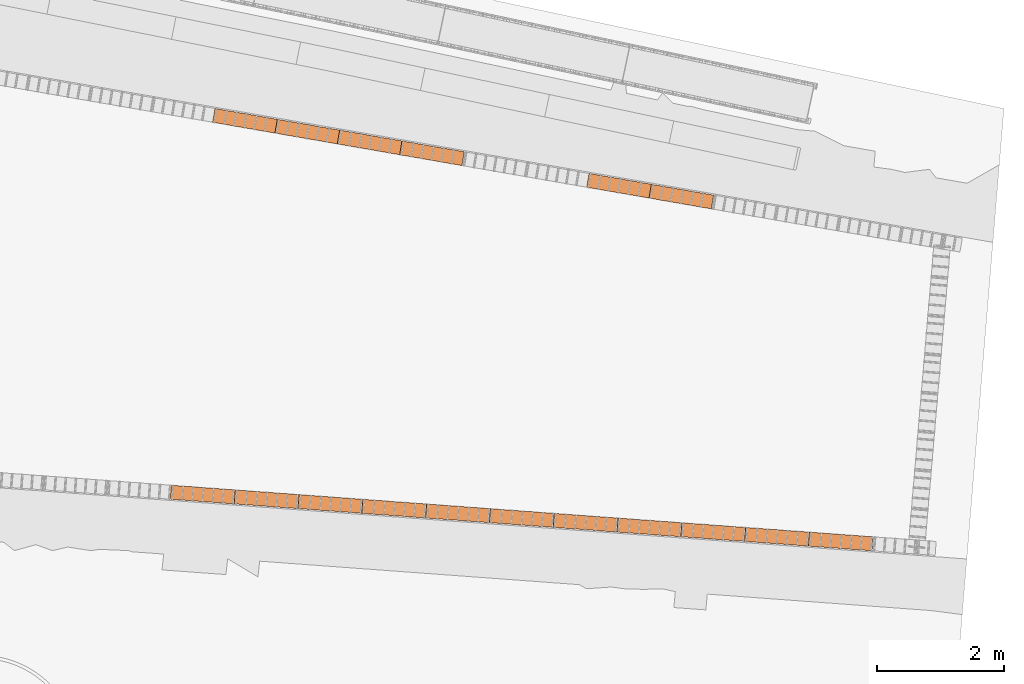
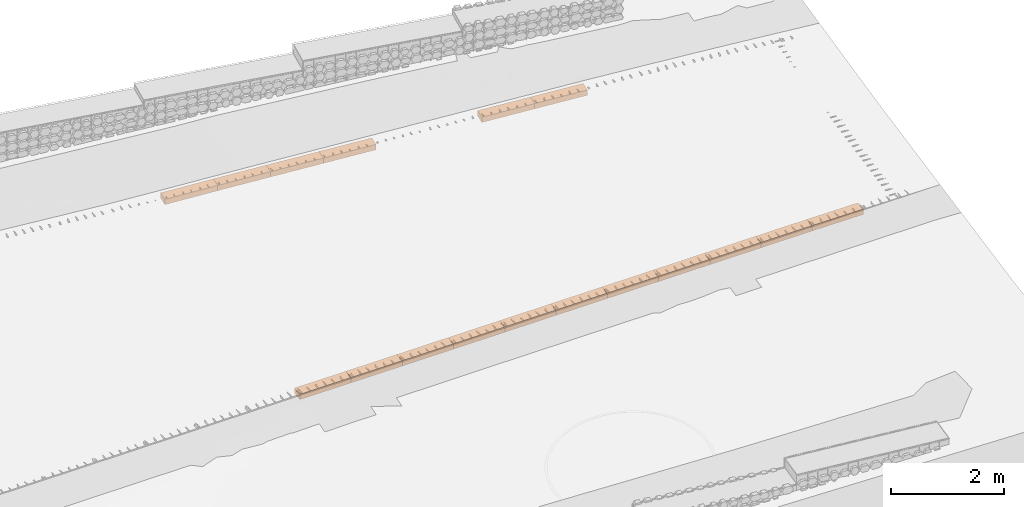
# Not in any storey, part 30 of 33: 17 proxies.
"""IFC4 model written with IfcOpenShell, lengths in metres."""

from ifc_helpers import new_model, si_unit, direction, frame, origin_with_axes, place, context, subcontext, project, spatial, polygons, material, element, save


model = new_model("IFC4")

# Units and contexts
model_context = context("Model", 3, precision=1e-05, world=origin_with_axes(), true_north=direction((0.0, 1.0)))
body_context = subcontext(model_context, "Body", "Model", "MODEL_VIEW")
ifc_project = project(units=[si_unit("LENGTHUNIT", "METRE"), si_unit("AREAUNIT", "SQUARE_METRE"), si_unit("VOLUMEUNIT", "CUBIC_METRE")], contexts=[model_context])

# Site
site_placement = place(None, origin_with_axes())
site = spatial("IfcSite", under=ifc_project, at=site_placement, Name="Lares · Rua das Mercês · artigo 4771")

# Proxies
ifc_material = material(Name="Brita drenante", Category="stone")
proxy_1_placement = place(site_placement, frame((0.0, 0.0, 0.0), z_axis=(0.0, 0.0, 1.0), x_axis=(1.0, -1.03767253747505e-17, 0.0)))
element("IfcBuildingElementProxy", 1, at=proxy_1_placement, inside=site, material=ifc_material, Name="Acesso · dreno lateral raso · leito drenante", ObjectType="Acesso · dreno lateral raso · leito drenante", PredefinedType="USERDEFINED", context=body_context, shape_type="Tessellation", body=[
    polygons([(70.7471635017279, 1.44988744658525, 15.3206617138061), (70.7632908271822, 1.66929553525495, 15.3206617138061), (71.7673363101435, 1.59549438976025, 15.3752269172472), (71.7512089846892, 1.37608630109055, 15.3752269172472), (70.7471635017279, 1.44988744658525, 15.4356617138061), (70.7632908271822, 1.66929553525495, 15.4356617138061), (71.7673363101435, 1.59549438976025, 15.4902269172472), (71.7512089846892, 1.37608630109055, 15.4902269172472)], [[[4, 3, 2, 1]], [[5, 6, 7, 8]], [[1, 2, 6, 5]], [[2, 3, 7, 6]], [[3, 4, 8, 7]], [[4, 1, 5, 8]]]),
])
proxy_2_placement = place(site_placement, frame((0.0, 0.0, 0.0), z_axis=(0.0, 0.0, 1.0), x_axis=(1.0, -1.03767253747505e-17, 0.0)))
element("IfcBuildingElementProxy", 2, at=proxy_2_placement, inside=site, material=ifc_material, Name="Acesso · dreno lateral raso · leito drenante", ObjectType="Acesso · dreno lateral raso · leito drenante", PredefinedType="USERDEFINED", context=body_context, shape_type="Tessellation", body=[
    polygons([(71.7512089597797, 1.37608630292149, 15.3752269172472), (71.7673363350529, 1.59549438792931, 15.3752269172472), (72.7713731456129, 1.52169365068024, 15.4324257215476), (72.7552457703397, 1.30228556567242, 15.4324257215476), (71.7512089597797, 1.37608630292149, 15.4902269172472), (71.7673363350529, 1.59549438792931, 15.4902269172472), (72.7713731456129, 1.52169365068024, 15.5474257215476), (72.7552457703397, 1.30228556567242, 15.5474257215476)], [[[4, 3, 2, 1]], [[5, 6, 7, 8]], [[1, 2, 6, 5]], [[2, 3, 7, 6]], [[3, 4, 8, 7]], [[4, 1, 5, 8]]]),
])
proxy_3_placement = place(site_placement, frame((0.0, 0.0, 0.0), z_axis=(0.0, 0.0, 1.0), x_axis=(1.0, -1.03767253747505e-17, 0.0)))
element("IfcBuildingElementProxy", 3, at=proxy_3_placement, inside=site, material=ifc_material, Name="Acesso · dreno lateral raso · leito drenante", ObjectType="Acesso · dreno lateral raso · leito drenante", PredefinedType="USERDEFINED", context=body_context, shape_type="Tessellation", body=[
    polygons([(72.7552457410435, 1.30228556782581, 15.4324257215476), (72.771373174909, 1.52169364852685, 15.4324257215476), (73.7754008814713, 1.44789331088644, 15.4903385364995), (73.7592734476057, 1.2284852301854, 15.4903385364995), (72.7552457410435, 1.30228556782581, 15.5474257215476), (72.771373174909, 1.52169364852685, 15.5474257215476), (73.7754008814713, 1.44789331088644, 15.6053385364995), (73.7592734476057, 1.2284852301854, 15.6053385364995)], [[[4, 3, 2, 1]], [[5, 6, 7, 8]], [[1, 2, 6, 5]], [[2, 3, 7, 6]], [[3, 4, 8, 7]], [[4, 1, 5, 8]]]),
])
proxy_4_placement = place(site_placement, frame((0.0, 0.0, 0.0), z_axis=(0.0, 0.0, 1.0), x_axis=(1.0, -1.03767253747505e-17, 0.0)))
element("IfcBuildingElementProxy", 4, at=proxy_4_placement, inside=site, material=ifc_material, Name="Acesso · dreno lateral raso · leito drenante", ObjectType="Acesso · dreno lateral raso · leito drenante", PredefinedType="USERDEFINED", context=body_context, shape_type="Tessellation", body=[
    polygons([(73.7592734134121, 1.22848523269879, 15.4903385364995), (73.7754009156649, 1.44789330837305, 15.4903385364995), (74.7794190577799, 1.37409335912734, 15.5482507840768), (74.7632915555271, 1.15468528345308, 15.5482507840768), (73.7592734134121, 1.22848523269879, 15.6053385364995), (73.7754009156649, 1.44789330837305, 15.6053385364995), (74.7794190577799, 1.37409335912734, 15.6632507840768), (74.7632915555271, 1.15468528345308, 15.6632507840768)], [[[4, 3, 2, 1]], [[5, 6, 7, 8]], [[1, 2, 6, 5]], [[2, 3, 7, 6]], [[3, 4, 8, 7]], [[4, 1, 5, 8]]]),
])
proxy_5_placement = place(site_placement, frame((0.0, 0.0, 0.0), z_axis=(0.0, 0.0, 1.0), x_axis=(1.0, -1.03767253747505e-17, 0.0)))
element("IfcBuildingElementProxy", 5, at=proxy_5_placement, inside=site, material=ifc_material, Name="Acesso · dreno lateral raso · leito drenante", ObjectType="Acesso · dreno lateral raso · leito drenante", PredefinedType="USERDEFINED", context=body_context, shape_type="Tessellation", body=[
    polygons([(74.7632915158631, 1.15468528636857, 15.5482507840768), (74.7794190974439, 1.37409335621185, 15.5482507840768), (75.7834271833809, 1.30029378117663, 15.6061624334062), (75.7672996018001, 1.08088571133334, 15.6061624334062), (74.7632915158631, 1.15468528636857, 15.6632507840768), (74.7794190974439, 1.37409335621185, 15.6632507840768), (75.7834271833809, 1.30029378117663, 15.7211624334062), (75.7672996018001, 1.08088571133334, 15.7211624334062)], [[[4, 3, 2, 1]], [[5, 6, 7, 8]], [[1, 2, 6, 5]], [[2, 3, 7, 6]], [[3, 4, 8, 7]], [[4, 1, 5, 8]]]),
])
proxy_6_placement = place(site_placement, frame((0.0, 0.0, 0.0), z_axis=(0.0, 0.0, 1.0), x_axis=(1.0, -1.03767253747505e-17, 0.0)))
element("IfcBuildingElementProxy", 6, at=proxy_6_placement, inside=site, material=ifc_material, Name="Acesso · dreno lateral raso · leito drenante", ObjectType="Acesso · dreno lateral raso · leito drenante", PredefinedType="USERDEFINED", context=body_context, shape_type="Tessellation", body=[
    polygons([(75.7672995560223, 1.08088571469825, 15.6061624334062), (75.7834272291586, 1.30029377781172, 15.6061624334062), (76.7874247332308, 1.22649455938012, 15.6640734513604), (76.7712970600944, 1.00708649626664, 15.6640734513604), (75.7672995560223, 1.08088571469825, 15.7211624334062), (75.7834272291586, 1.30029377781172, 15.7211624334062), (76.7874247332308, 1.22649455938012, 15.7790734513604), (76.7712970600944, 1.00708649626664, 15.7790734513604)], [[[4, 3, 2, 1]], [[5, 6, 7, 8]], [[1, 2, 6, 5]], [[2, 3, 7, 6]], [[3, 4, 8, 7]], [[4, 1, 5, 8]]]),
])
proxy_7_placement = place(site_placement, frame((0.0, 0.0, 0.0), z_axis=(0.0, 0.0, 1.0), x_axis=(1.0, -1.03767253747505e-17, 0.0)))
element("IfcBuildingElementProxy", 7, at=proxy_7_placement, inside=site, material=ifc_material, Name="Acesso · dreno lateral raso · leito drenante", ObjectType="Acesso · dreno lateral raso · leito drenante", PredefinedType="USERDEFINED", context=body_context, shape_type="Tessellation", body=[
    polygons([(76.7712970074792, 1.00708650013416, 15.6640734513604), (76.787424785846, 1.2264945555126, 15.6640734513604), (77.7914111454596, 1.15269567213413, 15.7219838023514), (77.7752833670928, 0.933287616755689, 15.7219838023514), (76.7712970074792, 1.00708650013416, 15.7790734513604), (76.787424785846, 1.2264945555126, 15.7790734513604), (77.7914111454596, 1.15269567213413, 15.8369838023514), (77.7752833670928, 0.933287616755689, 15.8369838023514)], [[[4, 3, 2, 1]], [[5, 6, 7, 8]], [[1, 2, 6, 5]], [[2, 3, 7, 6]], [[3, 4, 8, 7]], [[4, 1, 5, 8]]]),
])
proxy_8_placement = place(site_placement, frame((0.0, 0.0, 0.0), z_axis=(0.0, 0.0, 1.0), x_axis=(1.0, -1.03767253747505e-17, 0.0)))
element("IfcBuildingElementProxy", 8, at=proxy_8_placement, inside=site, material=ifc_material, Name="Acesso · dreno lateral raso · leito drenante", ObjectType="Acesso · dreno lateral raso · leito drenante", PredefinedType="USERDEFINED", context=body_context, shape_type="Tessellation", body=[
    polygons([(77.7752833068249, 0.933287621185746, 15.7219838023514), (77.7914112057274, 1.15269566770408, 15.7219838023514), (78.7953858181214, 1.07889709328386, 15.7798934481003), (78.7792579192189, 0.859489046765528, 15.7798934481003), (77.7752833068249, 0.933287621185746, 15.8369838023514), (77.7914112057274, 1.15269566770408, 15.8369838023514), (78.7953858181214, 1.07889709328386, 15.8948934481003), (78.7792579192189, 0.859489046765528, 15.8948934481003)], [[[4, 3, 2, 1]], [[5, 6, 7, 8]], [[1, 2, 6, 5]], [[2, 3, 7, 6]], [[3, 4, 8, 7]], [[4, 1, 5, 8]]]),
])
proxy_9_placement = place(site_placement, frame((0.0, 0.0, 0.0), z_axis=(0.0, 0.0, 1.0), x_axis=(1.0, -1.03767253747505e-17, 0.0)))
element("IfcBuildingElementProxy", 9, at=proxy_9_placement, inside=site, material=ifc_material, Name="Acesso · dreno lateral raso · leito drenante", ObjectType="Acesso · dreno lateral raso · leito drenante", PredefinedType="USERDEFINED", context=body_context, shape_type="Tessellation", body=[
    polygons([(78.7792578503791, 0.859489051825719, 15.7798934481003), (78.7953858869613, 1.07889708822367, 15.7798934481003), (79.7993481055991, 1.00509879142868, 15.8378023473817), (79.7832200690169, 0.785690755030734, 15.8378023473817), (78.7792578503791, 0.859489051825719, 15.8948934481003), (78.7953858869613, 1.07889708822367, 15.8948934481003), (79.7993481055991, 1.00509879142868, 15.9528023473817), (79.7832200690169, 0.785690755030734, 15.9528023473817)], [[[4, 3, 2, 1]], [[5, 6, 7, 8]], [[1, 2, 6, 5]], [[2, 3, 7, 6]], [[3, 4, 8, 7]], [[4, 1, 5, 8]]]),
])
proxy_10_placement = place(site_placement, frame((0.0, 0.0, 0.0), z_axis=(0.0, 0.0, 1.0), x_axis=(1.0, -1.03767253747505e-17, 0.0)))
element("IfcBuildingElementProxy", 10, at=proxy_10_placement, inside=site, material=ifc_material, Name="Acesso · dreno lateral raso · leito drenante", ObjectType="Acesso · dreno lateral raso · leito drenante", PredefinedType="USERDEFINED", context=body_context, shape_type="Tessellation", body=[
    polygons([(79.7832199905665, 0.785690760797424, 15.8378023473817), (79.7993481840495, 1.005098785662, 15.8378023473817), (80.8032973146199, 0.931300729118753, 15.8957104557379), (80.7871691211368, 0.711892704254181, 15.8957104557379), (79.7832199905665, 0.785690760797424, 15.9528023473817), (79.7993481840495, 1.005098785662, 15.9528023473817), (80.8032973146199, 0.931300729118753, 16.0107104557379), (80.7871691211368, 0.711892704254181, 16.0107104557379)], [[[4, 3, 2, 1]], [[5, 6, 7, 8]], [[1, 2, 6, 5]], [[2, 3, 7, 6]], [[3, 4, 8, 7]], [[4, 1, 5, 8]]]),
])
proxy_11_placement = place(site_placement, frame((0.0, 0.0, 0.0), z_axis=(0.0, 0.0, 1.0), x_axis=(1.0, -1.03767253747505e-17, 0.0)))
element("IfcBuildingElementProxy", 11, at=proxy_11_placement, inside=site, material=ifc_material, Name="Acesso · dreno lateral raso · leito drenante", ObjectType="Acesso · dreno lateral raso · leito drenante", PredefinedType="USERDEFINED", context=body_context, shape_type="Tessellation", body=[
    polygons([(80.7871690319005, 0.711892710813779, 15.8957104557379), (80.8032974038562, 0.931300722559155, 15.8957104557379), (81.8072326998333, 0.857502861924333, 15.9472141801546), (81.7911043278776, 0.638094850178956, 15.9472141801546), (80.7871690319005, 0.711892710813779, 16.0107104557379), (80.8032974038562, 0.931300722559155, 16.0107104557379), (81.8072326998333, 0.857502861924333, 16.0622141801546), (81.7911043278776, 0.638094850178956, 16.0622141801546)], [[[4, 3, 2, 1]], [[5, 6, 7, 8]], [[1, 2, 6, 5]], [[2, 3, 7, 6]], [[3, 4, 8, 7]], [[4, 1, 5, 8]]]),
])
proxy_12_placement = place(site_placement, frame((0.0, 0.0, 0.0), z_axis=(0.0, 0.0, 1.0), x_axis=(1.0, -1.03767253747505e-17, 0.0)))
element("IfcBuildingElementProxy", 12, at=proxy_12_placement, inside=site, material=ifc_material, Name="Acesso · dreno lateral raso · leito drenante", ObjectType="Acesso · dreno lateral raso · leito drenante", PredefinedType="USERDEFINED", context=body_context, shape_type="Tessellation", body=[
    polygons([(71.412155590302, 7.3815226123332, 15.7002770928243), (71.4498058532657, 7.59827698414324, 15.7002770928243), (72.4307960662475, 7.4278788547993, 15.7623891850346), (72.3931458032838, 7.21112448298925, 15.7623891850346), (71.412155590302, 7.3815226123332, 15.8152770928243), (71.4498058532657, 7.59827698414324, 15.8152770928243), (72.4307960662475, 7.4278788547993, 15.8773891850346), (72.3931458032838, 7.21112448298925, 15.8773891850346)], [[[4, 3, 2, 1]], [[5, 6, 7, 8]], [[1, 2, 6, 5]], [[2, 3, 7, 6]], [[3, 4, 8, 7]], [[4, 1, 5, 8]]]),
])
proxy_13_placement = place(site_placement, frame((0.0, 0.0, 0.0), z_axis=(0.0, 0.0, 1.0), x_axis=(1.0, -1.03767253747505e-17, 0.0)))
element("IfcBuildingElementProxy", 13, at=proxy_13_placement, inside=site, material=ifc_material, Name="Acesso · dreno lateral raso · leito drenante", ObjectType="Acesso · dreno lateral raso · leito drenante", PredefinedType="USERDEFINED", context=body_context, shape_type="Tessellation", body=[
    polygons([(72.3931459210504, 7.21112446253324, 15.7623891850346), (72.4307959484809, 7.4278788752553, 15.7623891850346), (73.411794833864, 7.25748033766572, 15.8187740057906), (73.3741448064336, 7.04072592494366, 15.8187740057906), (72.3931459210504, 7.21112446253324, 15.8773891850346), (72.4307959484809, 7.4278788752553, 15.8773891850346), (73.411794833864, 7.25748033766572, 15.9337740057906), (73.3741448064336, 7.04072592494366, 15.9337740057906)], [[[4, 3, 2, 1]], [[5, 6, 7, 8]], [[1, 2, 6, 5]], [[2, 3, 7, 6]], [[3, 4, 8, 7]], [[4, 1, 5, 8]]]),
])
proxy_14_placement = place(site_placement, frame((0.0, 0.0, 0.0), z_axis=(0.0, 0.0, 1.0), x_axis=(1.0, -1.03767253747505e-17, 0.0)))
element("IfcBuildingElementProxy", 14, at=proxy_14_placement, inside=site, material=ifc_material, Name="Acesso · dreno lateral raso · leito drenante", ObjectType="Acesso · dreno lateral raso · leito drenante", PredefinedType="USERDEFINED", context=body_context, shape_type="Tessellation", body=[
    polygons([(73.3741449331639, 7.04072590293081, 15.8187740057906), (73.4117947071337, 7.25748035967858, 15.8187740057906), (74.3928026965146, 7.08708142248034, 15.8729916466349), (74.3551529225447, 6.87032696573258, 15.8729916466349), (73.3741449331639, 7.04072590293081, 15.9337740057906), (73.4117947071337, 7.25748035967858, 15.9337740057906), (74.3928026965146, 7.08708142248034, 15.9879916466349), (74.3551529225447, 6.87032696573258, 15.9879916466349)], [[[4, 3, 2, 1]], [[5, 6, 7, 8]], [[1, 2, 6, 5]], [[2, 3, 7, 6]], [[3, 4, 8, 7]], [[4, 1, 5, 8]]]),
])
proxy_15_placement = place(site_placement, frame((0.0, 0.0, 0.0), z_axis=(0.0, 0.0, 1.0), x_axis=(1.0, -1.03767253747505e-17, 0.0)))
element("IfcBuildingElementProxy", 15, at=proxy_15_placement, inside=site, material=ifc_material, Name="Acesso · dreno lateral raso · leito drenante", ObjectType="Acesso · dreno lateral raso · leito drenante", PredefinedType="USERDEFINED", context=body_context, shape_type="Tessellation", body=[
    polygons([(74.3551530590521, 6.87032694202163, 15.8729916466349), (74.3928025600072, 7.08708144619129, 15.8729916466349), (75.3738201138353, 6.91668212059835, 15.9272099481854), (75.3361706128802, 6.69992761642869, 15.9272099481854), (74.3551530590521, 6.87032694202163, 15.9879916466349), (74.3928025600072, 7.08708144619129, 15.9879916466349), (75.3738201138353, 6.91668212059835, 16.0422099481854), (75.3361706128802, 6.69992761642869, 16.0422099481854)], [[[4, 3, 2, 1]], [[5, 6, 7, 8]], [[1, 2, 6, 5]], [[2, 3, 7, 6]], [[3, 4, 8, 7]], [[4, 1, 5, 8]]]),
])
proxy_16_placement = place(site_placement, frame((0.0, 0.0, 0.0), z_axis=(0.0, 0.0, 1.0), x_axis=(1.0, -1.03767253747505e-17, 0.0)))
element("IfcBuildingElementProxy", 16, at=proxy_16_placement, inside=site, material=ifc_material, Name="Acesso · dreno lateral raso · leito drenante", ObjectType="Acesso · dreno lateral raso · leito drenante", PredefinedType="USERDEFINED", context=body_context, shape_type="Tessellation", body=[
    polygons([(77.2982368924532, 6.35912777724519, 16.0356486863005), (77.3358854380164, 6.57588244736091, 16.0356486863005), (78.3169347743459, 6.40548205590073, 16.0898692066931), (78.2792862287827, 6.18872738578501, 16.0898692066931), (77.2982368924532, 6.35912777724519, 16.1506486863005), (77.3358854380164, 6.57588244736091, 16.1506486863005), (78.3169347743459, 6.40548205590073, 16.2048692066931), (78.2792862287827, 6.18872738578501, 16.2048692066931)], [[[4, 3, 2, 1]], [[5, 6, 7, 8]], [[1, 2, 6, 5]], [[2, 3, 7, 6]], [[3, 4, 8, 7]], [[4, 1, 5, 8]]]),
])
proxy_17_placement = place(site_placement, frame((0.0, 0.0, 0.0), z_axis=(0.0, 0.0, 1.0), x_axis=(1.0, -1.03767253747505e-17, 0.0)))
element("IfcBuildingElementProxy", 17, at=proxy_17_placement, inside=site, material=ifc_material, Name="Acesso · dreno lateral raso · leito drenante", ObjectType="Acesso · dreno lateral raso · leito drenante", PredefinedType="USERDEFINED", context=body_context, shape_type="Tessellation", body=[
    polygons([(78.2792864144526, 6.18872735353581, 16.0898692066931), (78.316934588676, 6.40548208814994, 16.0898692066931), (79.2979956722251, 6.23508138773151, 16.1440905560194), (79.2603474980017, 6.01832665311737, 16.1440905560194), (78.2792864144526, 6.18872735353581, 16.2048692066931), (78.316934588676, 6.40548208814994, 16.2048692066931), (79.2979956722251, 6.23508138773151, 16.2590905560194), (79.2603474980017, 6.01832665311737, 16.2590905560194)], [[[4, 3, 2, 1]], [[5, 6, 7, 8]], [[1, 2, 6, 5]], [[2, 3, 7, 6]], [[3, 4, 8, 7]], [[4, 1, 5, 8]]]),
])

save(model, "model.ifc")
